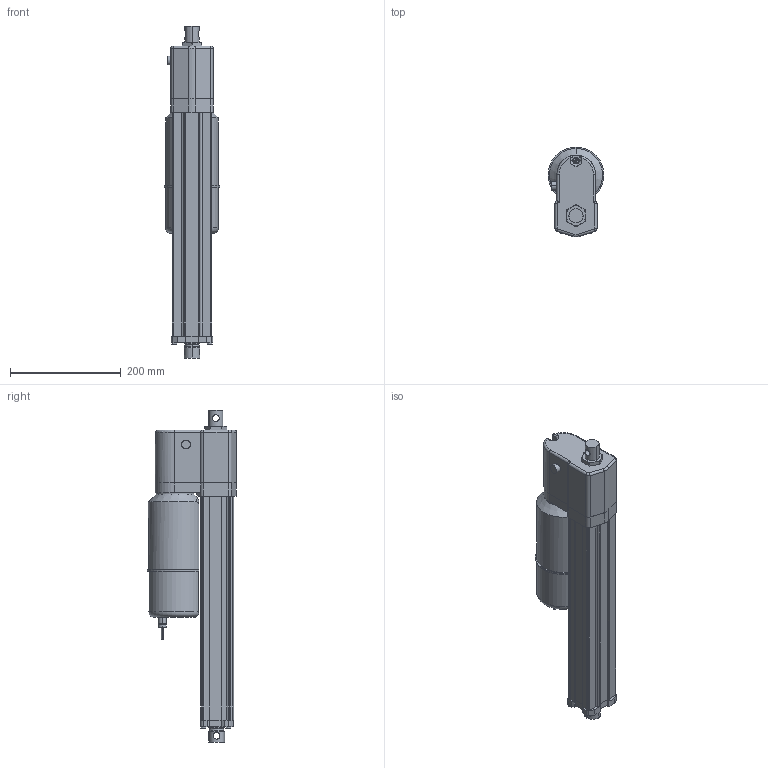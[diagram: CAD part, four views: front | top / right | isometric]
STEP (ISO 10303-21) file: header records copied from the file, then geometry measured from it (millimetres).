
FILE_DESCRIPTION (( 'STEP AP214' ), '1' );
FILE_NAME ('AA22-05B65M-30M0NPO-tollo.step', '2020-04-14T18:50:50', ( '' ), ( '' ), 'SwSTEP 2.0', 'SolidWorks 2010', '' );
FILE_SCHEMA (( 'AUTOMOTIVE_DESIGN' ));
Length unit declared in the file: millimetre
Products named in the file (8): Electrak-LA24-Motor-AA22-05B65M-30M0NPO-tollo_Electrak-LA24-Motor-AA22-05B65M-30M0NPO-tollo; Electrak-LA24-Rear-AA22-05B65M-30M0NPO-tollo_Electrak-LA24-Rear-AA22-05B65M-30M0NPO-tollo; Electrak-LA24-Tube-AA22-05B65M-30M0NPO-tollo_Electrak-LA24-Tube-AA22-05B65M-30M0NPO-tollo; Electrak-LA24-Rod-AA22-05B65M-30M0NPO-tollo_Electrak-LA24-Rod-AA22-05B65M-30M0NPO-tollo; Electrak-LA24-Plate-AA22-05B65M-30M0NPO-tollo_Electrak-LA24-Plate-AA22-05B65M-30M0NPO-tollo; Screw-MFX-H-M5_Screw-MFX-H-M5x24H; Screw-M6S-M5-AA22-05B65M-30M0NPO-tollo_Screw-M6S-M5-AA22-05B65M-30M0NPO-tollo; AA22-05B65M-30M0NPO-tollo
Assembly tree (10 placements, depth 2):
  AA22-05B65M-30M0NPO-tollo
    Screw-M6S-M5-AA22-05B65M-30M0NPO-tollo_Screw-M6S-M5-AA22-05B65M-30M0NPO-tollo  x4
    Electrak-LA24-Rear-AA22-05B65M-30M0NPO-tollo_Electrak-LA24-Rear-AA22-05B65M-30M0NPO-tollo
    Electrak-LA24-Motor-AA22-05B65M-30M0NPO-tollo_Electrak-LA24-Motor-AA22-05B65M-30M0NPO-tollo
    Screw-MFX-H-M5_Screw-MFX-H-M5x24H
    Electrak-LA24-Plate-AA22-05B65M-30M0NPO-tollo_Electrak-LA24-Plate-AA22-05B65M-30M0NPO-tollo
    Electrak-LA24-Tube-AA22-05B65M-30M0NPO-tollo_Electrak-LA24-Tube-AA22-05B65M-30M0NPO-tollo
    Electrak-LA24-Rod-AA22-05B65M-30M0NPO-tollo_Electrak-LA24-Rod-AA22-05B65M-30M0NPO-tollo
Bounding box: 100.99 x 162.5 x 600.7 mm (x, y, z)
Volume: 3368538.5 mm3; surface area: 442477.7 mm2
Topology: 10 solids, 10 shells, 432 faces, 1077 edges, 685 vertices
Faces by surface type: cylinder 178, plane 175, cone 58, torus 16, bspline 3, sphere 2
Entity records: 11619 total; most frequent: CARTESIAN_POINT 2735, DIRECTION 1825, ORIENTED_EDGE 1714, EDGE_CURVE 857, AXIS2_PLACEMENT_3D 668, VERTEX_POINT 550, VECTOR 489, LINE 489
